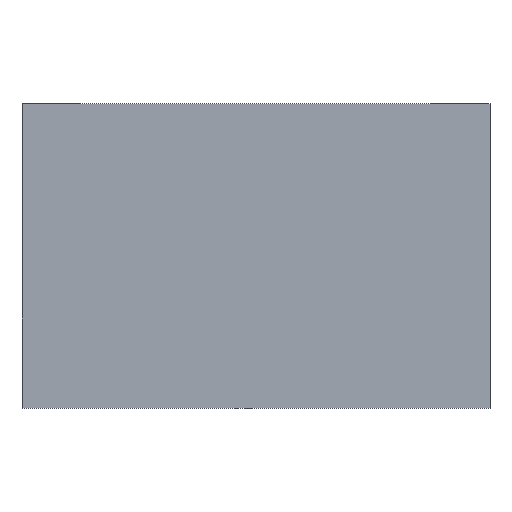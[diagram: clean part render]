
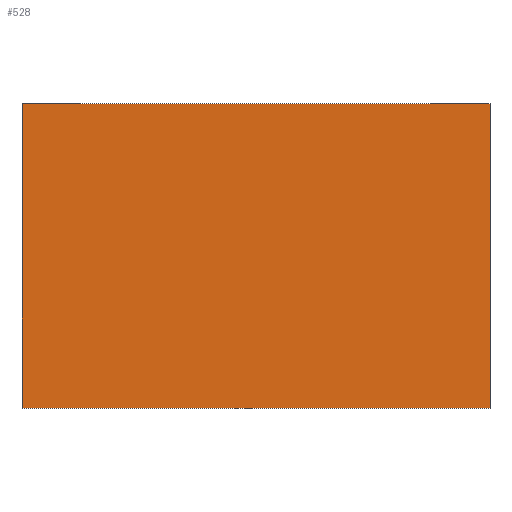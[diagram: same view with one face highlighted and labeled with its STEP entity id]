
A CAD part, top view. The second image highlights one B-rep face of the part: STEP entity #528.
In plain terms, the highlighted planar face has unit normal (0, 0, 1).
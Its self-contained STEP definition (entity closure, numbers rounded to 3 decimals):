
#19 = CARTESIAN_POINT ( 'NONE',  ( -10., 11.1, 0. ) ) ;
#21 = VERTEX_POINT ( 'NONE', #557 ) ;
#31 = ORIENTED_EDGE ( 'NONE', *, *, #339, .T. ) ;
#39 = EDGE_CURVE ( 'NONE', #21, #548, #499, .T. ) ;
#47 = CARTESIAN_POINT ( 'NONE',  ( -10., 11.1, 0. ) ) ;
#63 = FACE_OUTER_BOUND ( 'NONE', #162, .T. ) ;
#70 = CARTESIAN_POINT ( 'NONE',  ( -10., -1.9, 0. ) ) ;
#76 = LINE ( 'NONE', #19, #263 ) ;
#78 = ORIENTED_EDGE ( 'NONE', *, *, #512, .F. ) ;
#96 = CARTESIAN_POINT ( 'NONE',  ( 10., -1.9, 0. ) ) ;
#101 = CARTESIAN_POINT ( 'NONE',  ( 10., 11.1, 0. ) ) ;
#109 = CARTESIAN_POINT ( 'NONE',  ( 10., 11.1, 0. ) ) ;
#151 = DIRECTION ( 'NONE',  ( -1., 0., 0. ) ) ;
#162 = EDGE_LOOP ( 'NONE', ( #277, #31, #390, #78 ) ) ;
#224 = DIRECTION ( 'NONE',  ( 0., 0., -1. ) ) ;
#263 = VECTOR ( 'NONE', #472, 1000. ) ;
#266 = VECTOR ( 'NONE', #489, 1000. ) ;
#277 = ORIENTED_EDGE ( 'NONE', *, *, #291, .T. ) ;
#282 = VECTOR ( 'NONE', #451, 1000. ) ;
#291 = EDGE_CURVE ( 'NONE', #515, #487, #611, .T. ) ;
#320 = LINE ( 'NONE', #109, #266 ) ;
#339 = EDGE_CURVE ( 'NONE', #487, #548, #76, .T. ) ;
#347 = VECTOR ( 'NONE', #151, 1000. ) ;
#366 = PLANE ( 'NONE',  #645 ) ;
#381 = CARTESIAN_POINT ( 'NONE',  ( 10., 11.1, 0. ) ) ;
#390 = ORIENTED_EDGE ( 'NONE', *, *, #39, .F. ) ;
#451 = DIRECTION ( 'NONE',  ( -1., 0., 0. ) ) ;
#472 = DIRECTION ( 'NONE',  ( 0., -1., 0. ) ) ;
#487 = VERTEX_POINT ( 'NONE', #47 ) ;
#489 = DIRECTION ( 'NONE',  ( 0., -1., 0. ) ) ;
#499 = LINE ( 'NONE', #96, #282 ) ;
#512 = EDGE_CURVE ( 'NONE', #515, #21, #320, .T. ) ;
#515 = VERTEX_POINT ( 'NONE', #381 ) ;
#518 = CARTESIAN_POINT ( 'NONE',  ( 10., 11.1, 0. ) ) ;
#528 = ADVANCED_FACE ( 'NONE', ( #63 ), #366, .F. ) ;
#548 = VERTEX_POINT ( 'NONE', #70 ) ;
#557 = CARTESIAN_POINT ( 'NONE',  ( 10., -1.9, 0. ) ) ;
#581 = DIRECTION ( 'NONE',  ( 0., 1., 0. ) ) ;
#611 = LINE ( 'NONE', #101, #347 ) ;
#645 = AXIS2_PLACEMENT_3D ( 'NONE', #518, #224, #581 ) ;
